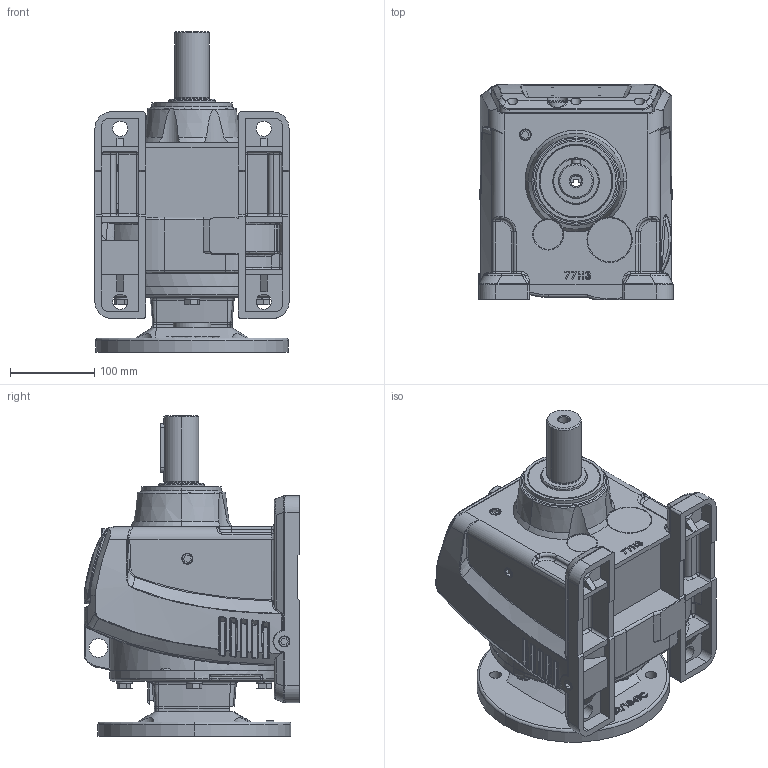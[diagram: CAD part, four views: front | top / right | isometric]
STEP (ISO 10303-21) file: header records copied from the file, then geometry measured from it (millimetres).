
FILE_DESCRIPTION (( 'STEP AP203' ), '1' );
FILE_NAME ('WINL77-182-4TC.STEP', '2013-09-26T09:25:24', ( 'User' ), ( 'Chenta' ), 'SwSTEP 2.0', 'SolidWorks 2011', '' );
FILE_SCHEMA (( 'CONFIG_CONTROL_DESIGN' ));
Length unit declared in the file: millimetre
Products named in the file (1): WINL77-182-4TC
Bounding box: 230 x 255.34 x 380 mm (x, y, z)
Surface area: 546927.3 mm2 (no closed solid volume)
Topology: 0 solids, 32 shells, 1235 faces, 3588 edges, 2310 vertices
Faces by surface type: plane 381, bspline 354, cylinder 307, cone 79, torus 79, sphere 35
Entity records: 59548 total; most frequent: CARTESIAN_POINT 30046, ORIENTED_EDGE 6351, DIRECTION 5389, EDGE_CURVE 3567, VERTEX_POINT 2310, AXIS2_PLACEMENT_3D 2000, VECTOR 1389, LINE 1389
